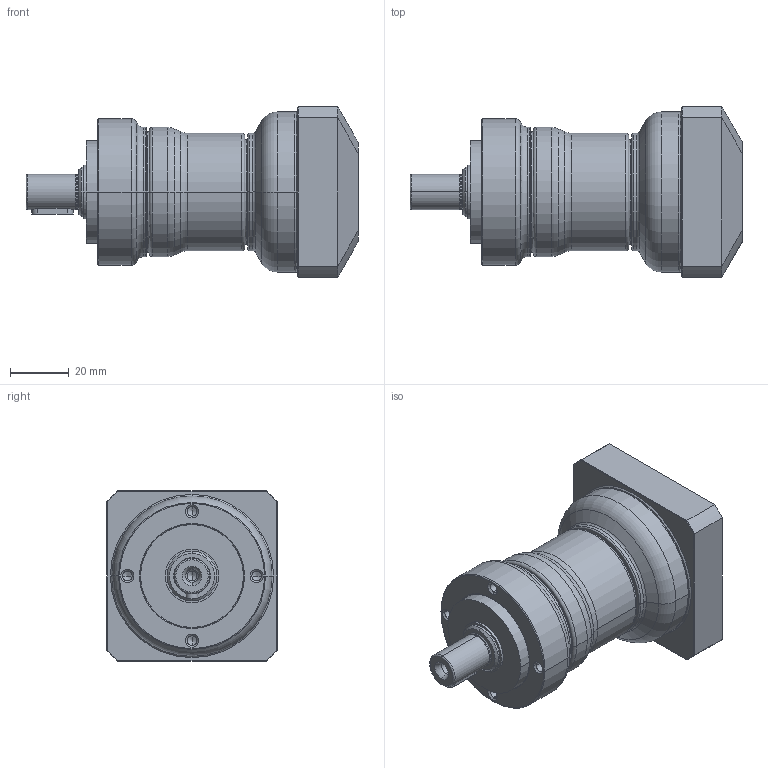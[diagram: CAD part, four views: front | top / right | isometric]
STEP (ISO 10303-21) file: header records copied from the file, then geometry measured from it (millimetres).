
FILE_DESCRIPTION((''),'2;1');
FILE_NAME('PE2-050_2ST_8-P0411100101_ASM','2017-06-01T',('d01943'),(''),'PRO/ENGINEER BY PARAMETRIC TECHNOLOGY CORPORATION, 2008410','PRO/ENGINEER BY PARAMETRIC TECHNOLOGY CORPORATION, 2008410','');
FILE_SCHEMA(('CONFIG_CONTROL_DESIGN'));
Length unit declared in the file: millimetre
Products named in the file (9): P1323100001; P0251100001; P1324100001; P0350101001; P0941100001; P0503100005; P0411100101; P1702300001; PE2-050_2ST_8-P0411100101_ASM
Assembly tree (8 placements, depth 2):
  PE2-050_2ST_8-P0411100101_ASM
    P1323100001
    P0251100001
    P1324100001
    P0350101001
    P0941100001
    P0503100005
    P0411100101
    P1702300001
Bounding box: 113 x 58 x 58 mm (x, y, z)
Volume: 129868.8 mm3; surface area: 49602.9 mm2
Topology: 8 solids, 8 shells, 447 faces, 998 edges, 578 vertices
Faces by surface type: cylinder 132, cone 128, torus 96, plane 75, bspline 16
Entity records: 17412 total; most frequent: CARTESIAN_POINT 7241, DIRECTION 2301, ORIENTED_EDGE 1948, AXIS2_PLACEMENT_3D 990, EDGE_CURVE 974, VERTEX_POINT 578, CIRCLE 542, EDGE_LOOP 506
